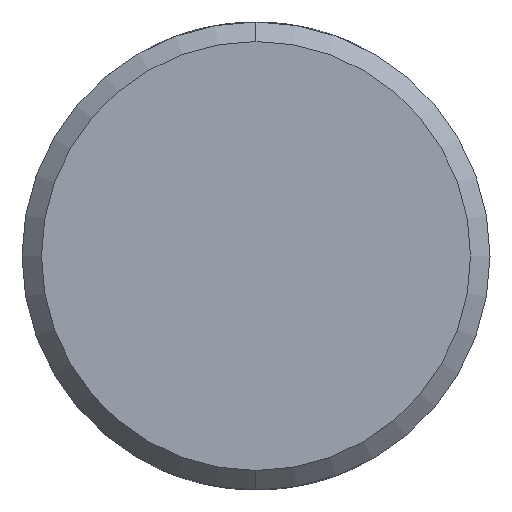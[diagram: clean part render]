
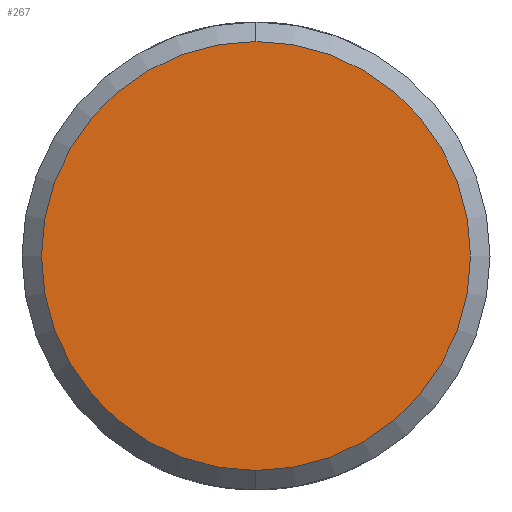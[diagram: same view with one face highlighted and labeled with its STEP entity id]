
A CAD part, left-side view. The second image highlights one B-rep face of the part: STEP entity #267.
In plain terms, the highlighted planar face has unit normal (-1, 0, 0).
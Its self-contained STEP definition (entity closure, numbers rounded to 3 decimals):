
#17 = ORIENTED_EDGE ( 'NONE', *, *, #794, .T. ) ;
#30 = CARTESIAN_POINT ( 'NONE',  ( -52., 0., 5.5 ) ) ;
#72 = DIRECTION ( 'NONE',  ( 1., 0., 0. ) ) ;
#242 = AXIS2_PLACEMENT_3D ( 'NONE', #265, #964, #647 ) ;
#265 = CARTESIAN_POINT ( 'NONE',  ( -52., 0., 0. ) ) ;
#267 = ADVANCED_FACE ( 'NONE', ( #353 ), #453, .F. ) ;
#304 = DIRECTION ( 'NONE',  ( 0., 0., -1. ) ) ;
#353 = FACE_OUTER_BOUND ( 'NONE', #737, .T. ) ;
#386 = VERTEX_POINT ( 'NONE', #460 ) ;
#453 = PLANE ( 'NONE',  #666 ) ;
#460 = CARTESIAN_POINT ( 'NONE',  ( -52., 0., -5.5 ) ) ;
#554 = EDGE_CURVE ( 'NONE', #988, #386, #697, .T. ) ;
#647 = DIRECTION ( 'NONE',  ( 0., 0., -1. ) ) ;
#666 = AXIS2_PLACEMENT_3D ( 'NONE', #924, #72, #773 ) ;
#697 = CIRCLE ( 'NONE', #242, 5.5 ) ;
#699 = AXIS2_PLACEMENT_3D ( 'NONE', #772, #1002, #304 ) ;
#737 = EDGE_LOOP ( 'NONE', ( #17, #995 ) ) ;
#770 = CIRCLE ( 'NONE', #699, 5.5 ) ;
#772 = CARTESIAN_POINT ( 'NONE',  ( -52., 0., 0. ) ) ;
#773 = DIRECTION ( 'NONE',  ( 0., 0., -1. ) ) ;
#794 = EDGE_CURVE ( 'NONE', #386, #988, #770, .T. ) ;
#924 = CARTESIAN_POINT ( 'NONE',  ( -52., 0., 0. ) ) ;
#964 = DIRECTION ( 'NONE',  ( -1., 0., 0. ) ) ;
#988 = VERTEX_POINT ( 'NONE', #30 ) ;
#995 = ORIENTED_EDGE ( 'NONE', *, *, #554, .T. ) ;
#1002 = DIRECTION ( 'NONE',  ( -1., 0., 0. ) ) ;
